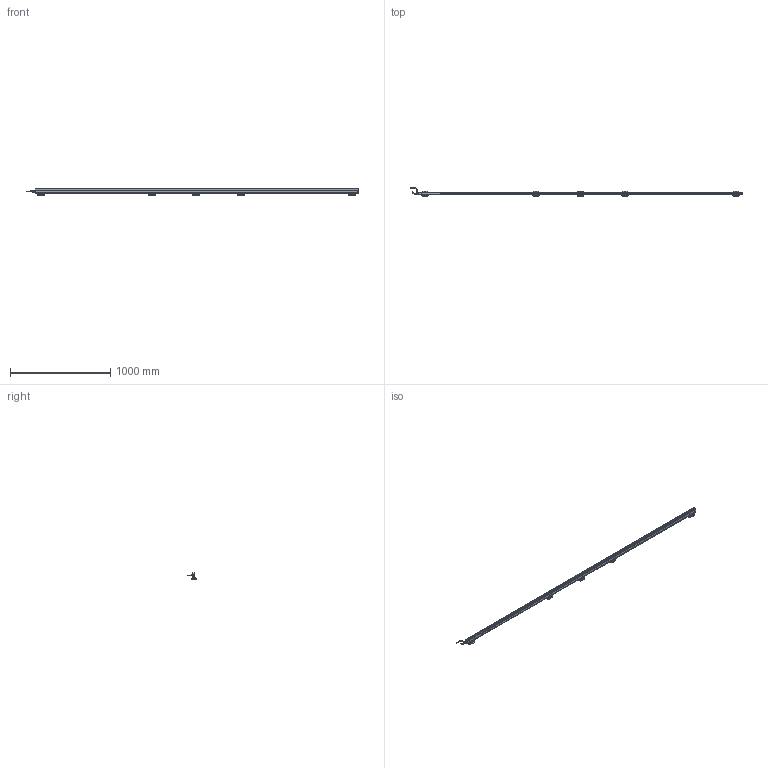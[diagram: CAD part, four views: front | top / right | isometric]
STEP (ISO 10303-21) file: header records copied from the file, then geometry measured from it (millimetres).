
FILE_DESCRIPTION(('Bauteilbeschreibung','HiCAD-Model','HiCAD-STEP-TRANSLATION','Bauteilbeschreibung'),'2;1');
FILE_NAME('PERFORMAXIQEASY_3150-3240_3D.STP','2014-03-05T13:14:50+00:00',('Konstrukteur'),('Konstrukteur Firma GmbH'),' HiCAD 2011, Step 1600.0 ','HiCAD 2011','confidential');
FILE_SCHEMA(('AUTOMOTIVE_DESIGN { 1 2 10303 214 0 1 1 1 }'));
Products named in the file (51): PERFORMAXIQEASY_3150_3240_3D; A_PERFORMAX IQ EASY 3150_3240; A_PERFORMAX IQ EASY SPEED; A_CAP DE; A_CAP CE_5; LED_2C_3MM; LED02C03MM; A519020315_CONNECTOR APPLIANCE; A_INSERT; A_CONTACTS; A_HOUSING; A_PROFILE; A_POTTING; PIN; PIN0; A532000100_BRACKET BARS_ MOUNT; A_SIDE PIECE; A0SIDE0PIECE; A_BRACKET SMALL; A_SLIDE PIECE; A5320001000BRACKET0BARS00MOUNT; A0SIDE0PIECE0; A0SIDE0PIECE1; A0BRACKET0SMALL; A0SLIDE0PIECE; A5320001000BRACKET0BARS00MOUNT0; A0SIDE0PIECE2; A0SIDE0PIECE3; A0BRACKET0SMALL0; A0SLIDE0PIECE0; A0SIDE0PIECE4; A0SIDE0PIECE5; A0BRACKET0SMALL1; A0SLIDE0PIECE1; A0SIDE0PIECE6; A0SIDE0PIECE7; A0BRACKET0SMALL2; A0SLIDE0PIECE2; A_CONNECTOR STRAIGHT; EXTRUDED SOLID_0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
Assembly tree (50 placements, depth 5):
  PERFORMAXIQEASY_3150_3240_3D
    A_PERFORMAX IQ EASY 3150_3240
      A_PERFORMAX IQ EASY SPEED
        A_CAP DE
        A_CAP CE_5
        LED_2C_3MM
        LED02C03MM
        A519020315_CONNECTOR APPLIANCE
          A_INSERT
          A_CONTACTS
          A_HOUSING
        A_PROFILE
        A_POTTING
        PIN
        PIN0
      A532000100_BRACKET BARS_ MOUNT
        A_SIDE PIECE
        A0SIDE0PIECE
        A_BRACKET SMALL
        A_SLIDE PIECE
      A5320001000BRACKET0BARS00MOUNT
        A0SIDE0PIECE0
        A0SIDE0PIECE1
        A0BRACKET0SMALL
        A0SLIDE0PIECE
      A5320001000BRACKET0BARS00MOUNT0
        A0SIDE0PIECE2
        A0SIDE0PIECE3
        A0BRACKET0SMALL0
        A0SLIDE0PIECE0
      A5320001000BRACKET0BARS00MOUNT0
        A0SIDE0PIECE4
        A0SIDE0PIECE5
        A0BRACKET0SMALL1
        A0SLIDE0PIECE1
      A5320001000BRACKET0BARS00MOUNT0
        A0SIDE0PIECE6
        A0SIDE0PIECE7
        A0BRACKET0SMALL2
        A0SLIDE0PIECE2
      A_CONNECTOR STRAIGHT
        EXTRUDED SOLID_0
        DRAAD GEBOGEN
        REVOLVED SOLID_1
        REVOLVED SOLID_3
      A_CONNECTOR ANGLED
        REVOLVED0SOLID01
        EXTRUDED0SOLID00
        C_EDGE SWEEP_0
        REVOLVED SOLID_2
        REVOLVED0SOLID03
Bounding box: 3317.89 x 84.28 x 63.13 mm (x, y, z)
Volume: 3341085.1 mm3; surface area: 813485.2 mm2
Topology: 45 solids, 45 shells, 4215 faces, 10820 edges, 6422 vertices
Faces by surface type: cylinder 1797, plane 1597, sphere 277, torus 252, bspline 208, cone 84
Full cylindrical faces by diameter (mm): 0.8 x10, 1 x5, 2.387 x10, 3 x23, 3.1 x1, 4.2 x2, 5 x4, 5.5 x25, 8 x2, 8.2 x1, 8.4 x2, 8.945 x1, 9 x2, 10.2 x1, 10.5 x3, 11 x1, 12 x3, 12.8 x1, 13.8 x4, 14.5 x3
Entity records: 195163 total; most frequent: CARTESIAN_POINT 45850, DIRECTION 20961, ORIENTED_EDGE 20534, EDGE_CURVE 10267, COLOUR_RGB 9750, PRESENTATION_STYLE_ASSIGNMENT 9750, OVER_RIDING_STYLED_ITEM 9710, CURVE_STYLE 9705
